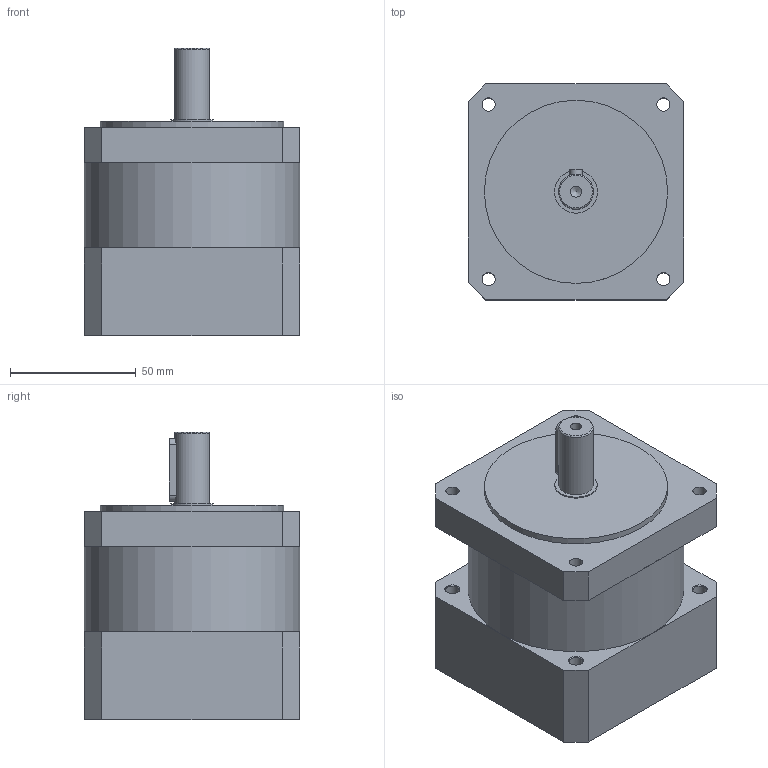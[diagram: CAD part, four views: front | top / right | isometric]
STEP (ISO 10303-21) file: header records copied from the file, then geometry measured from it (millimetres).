
FILE_DESCRIPTION(/* description */ (''),/* implementation_level */ '2;1');
FILE_NAME(/* name */ 'T86PG 1ji jiansu L 83.stp',/* time_stamp */ '2018-08-30T15:52:49+08:00',/* author */ (''),/* organization */ (''),/* preprocessor_version */ 'ST-DEVELOPER v11',/* originating_system */ 'SIEMENS UGS NX 6.0',/* authorisation */ '');
FILE_SCHEMA (('CONFIG_CONTROL_DESIGN'));
Length unit declared in the file: millimetre
Products named in the file (1): T86PG 1ji jiansu L 83
Bounding box: 86 x 86 x 114.5 mm (x, y, z)
Volume: 539566.7 mm3; surface area: 51320.4 mm2
Topology: 2 solids, 2 shells, 64 faces, 149 edges, 95 vertices
Faces by surface type: plane 36, cylinder 18, cone 9, torus 1
Full cylindrical faces by diameter (mm): 4.5 x1, 5.3 x8, 10 x1, 12.7 x1, 14 x1, 17 x1, 73 x2, 86 x1
Entity records: 1738 total; most frequent: DIRECTION 296, CARTESIAN_POINT 268, ORIENTED_EDGE 230, AXIS2_PLACEMENT_3D 116, EDGE_CURVE 115, EDGE_LOOP 112, FACE_BOUND 90, VERTEX_POINT 88
